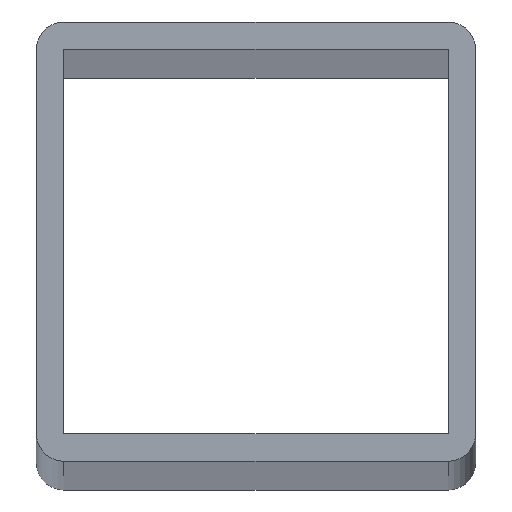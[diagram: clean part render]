
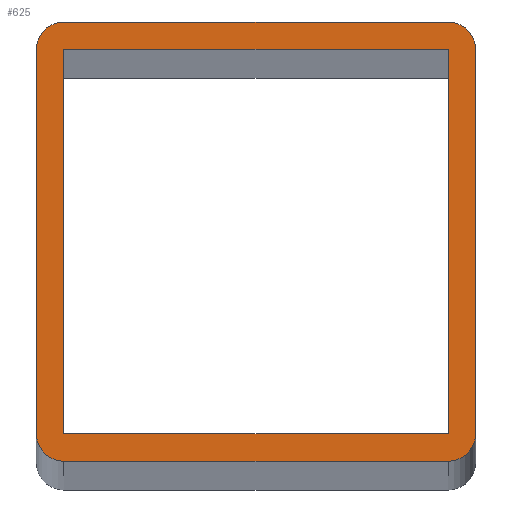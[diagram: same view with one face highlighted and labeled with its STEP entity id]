
A CAD part, top view. The second image highlights one B-rep face of the part: STEP entity #625.
In plain terms, the highlighted planar face has unit normal (0, 0, 1).
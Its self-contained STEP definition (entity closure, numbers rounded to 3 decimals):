
#290=CARTESIAN_POINT('',(-35.,35.,1500.));
#291=DIRECTION('',(0.,0.,1.));
#292=DIRECTION('',(0.,1.,0.));
#293=AXIS2_PLACEMENT_3D('',#290,#291,#292);
#298=DIRECTION('',(-1.,0.,0.));
#299=VECTOR('',#298,70.);
#300=CARTESIAN_POINT('',(35.,40.,1500.));
#301=LINE('',#300,#299);
#305=CARTESIAN_POINT('',(35.,35.,1500.));
#306=DIRECTION('',(0.,0.,1.));
#307=DIRECTION('',(1.,0.,0.));
#308=AXIS2_PLACEMENT_3D('',#305,#306,#307);
#313=DIRECTION('',(0.,1.,0.));
#314=VECTOR('',#313,70.);
#315=CARTESIAN_POINT('',(40.,-35.,1500.));
#316=LINE('',#315,#314);
#320=CARTESIAN_POINT('',(35.,-35.,1500.));
#321=DIRECTION('',(0.,0.,1.));
#322=DIRECTION('',(0.,-1.,0.));
#323=AXIS2_PLACEMENT_3D('',#320,#321,#322);
#328=DIRECTION('',(1.,0.,0.));
#329=VECTOR('',#328,70.);
#330=CARTESIAN_POINT('',(-35.,-40.,1500.));
#331=LINE('',#330,#329);
#335=CARTESIAN_POINT('',(-35.,-35.,1500.));
#336=DIRECTION('',(0.,0.,1.));
#337=DIRECTION('',(-1.,0.,0.));
#338=AXIS2_PLACEMENT_3D('',#335,#336,#337);
#343=DIRECTION('',(0.,-1.,0.));
#344=VECTOR('',#343,70.);
#345=CARTESIAN_POINT('',(-40.,35.,1500.));
#346=LINE('',#345,#344);
#350=DIRECTION('',(1.,0.,0.));
#351=VECTOR('',#350,70.);
#352=CARTESIAN_POINT('',(-35.,35.,1500.));
#353=LINE('',#352,#351);
#357=DIRECTION('',(0.,1.,0.));
#358=VECTOR('',#357,70.);
#359=CARTESIAN_POINT('',(-35.,-35.,1500.));
#360=LINE('',#359,#358);
#364=DIRECTION('',(-1.,0.,0.));
#365=VECTOR('',#364,70.);
#366=CARTESIAN_POINT('',(35.,-35.,1500.));
#367=LINE('',#366,#365);
#371=DIRECTION('',(0.,-1.,0.));
#372=VECTOR('',#371,70.);
#373=CARTESIAN_POINT('',(35.,35.,1500.));
#374=LINE('',#373,#372);
#430=CARTESIAN_POINT('',(-35.,40.,1500.));
#431=CARTESIAN_POINT('',(-40.,35.,1500.));
#432=VERTEX_POINT('',#430);
#433=VERTEX_POINT('',#431);
#434=CARTESIAN_POINT('',(-40.,-35.,1500.));
#435=VERTEX_POINT('',#434);
#436=CARTESIAN_POINT('',(-35.,-40.,1500.));
#437=VERTEX_POINT('',#436);
#438=CARTESIAN_POINT('',(35.,-40.,1500.));
#439=VERTEX_POINT('',#438);
#440=CARTESIAN_POINT('',(40.,-35.,1500.));
#441=VERTEX_POINT('',#440);
#442=CARTESIAN_POINT('',(40.,35.,1500.));
#443=VERTEX_POINT('',#442);
#444=CARTESIAN_POINT('',(35.,40.,1500.));
#445=VERTEX_POINT('',#444);
#446=CARTESIAN_POINT('',(-35.,35.,1500.));
#447=CARTESIAN_POINT('',(35.,35.,1500.));
#448=VERTEX_POINT('',#446);
#449=VERTEX_POINT('',#447);
#450=CARTESIAN_POINT('',(35.,-35.,1500.));
#451=VERTEX_POINT('',#450);
#452=CARTESIAN_POINT('',(-35.,-35.,1500.));
#453=VERTEX_POINT('',#452);
#600=CARTESIAN_POINT('',(0.,0.,1500.));
#601=DIRECTION('',(0.,0.,1.));
#602=DIRECTION('',(1.,0.,0.));
#603=AXIS2_PLACEMENT_3D('',#600,#601,#602);
#604=PLANE('',#603);
#605=ORIENTED_EDGE('',*,*,#496,.F.);
#606=ORIENTED_EDGE('',*,*,#511,.F.);
#607=ORIENTED_EDGE('',*,*,#525,.F.);
#608=ORIENTED_EDGE('',*,*,#539,.F.);
#609=ORIENTED_EDGE('',*,*,#553,.F.);
#610=ORIENTED_EDGE('',*,*,#567,.F.);
#611=ORIENTED_EDGE('',*,*,#581,.F.);
#612=ORIENTED_EDGE('',*,*,#594,.F.);
#613=EDGE_LOOP('',(#605,#606,#607,#608,#609,#610,#611,#612));
#614=FACE_OUTER_BOUND('',#613,.F.);
#616=ORIENTED_EDGE('',*,*,#615,.F.);
#618=ORIENTED_EDGE('',*,*,#617,.F.);
#620=ORIENTED_EDGE('',*,*,#619,.F.);
#622=ORIENTED_EDGE('',*,*,#621,.F.);
#623=EDGE_LOOP('',(#616,#618,#620,#622));
#624=FACE_BOUND('',#623,.F.);
#294=CIRCLE('',#293,5.);
#309=CIRCLE('',#308,5.);
#324=CIRCLE('',#323,5.);
#339=CIRCLE('',#338,5.);
#496=EDGE_CURVE('',#432,#433,#294,.T.);
#511=EDGE_CURVE('',#445,#432,#301,.T.);
#525=EDGE_CURVE('',#443,#445,#309,.T.);
#539=EDGE_CURVE('',#441,#443,#316,.T.);
#553=EDGE_CURVE('',#439,#441,#324,.T.);
#567=EDGE_CURVE('',#437,#439,#331,.T.);
#581=EDGE_CURVE('',#435,#437,#339,.T.);
#594=EDGE_CURVE('',#433,#435,#346,.T.);
#615=EDGE_CURVE('',#448,#449,#353,.T.);
#617=EDGE_CURVE('',#453,#448,#360,.T.);
#619=EDGE_CURVE('',#451,#453,#367,.T.);
#621=EDGE_CURVE('',#449,#451,#374,.T.);
#625=ADVANCED_FACE('',(#614,#624),#604,.T.);
